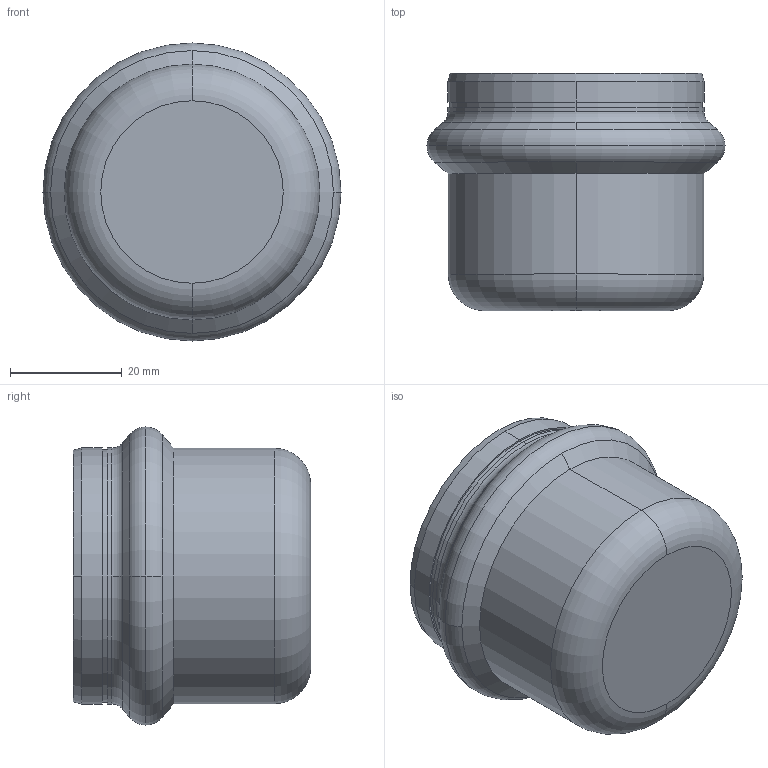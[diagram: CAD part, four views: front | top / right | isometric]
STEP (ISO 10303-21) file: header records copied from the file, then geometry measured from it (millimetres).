
FILE_DESCRIPTION(('CoCreate Modeling STEP Export'),'2;1');
FILE_NAME('8301VW42.stp','2013-03-05T13:30:29',(''),(''),'CoCreate Modeling STEP processor for AP214 (Solid Model)','CoCreate Modeling 17.00A 17-Jun-2010 (C) Parametric Technology GmbH','');
FILE_SCHEMA(('AUTOMOTIVE_DESIGN { 1 0 10303 214 1 1 1 1 }'));
Length unit declared in the file: millimetre
Products named in the file (1): 8301VW42
Bounding box: 53.4 x 42.55 x 53.4 mm (x, y, z)
Volume: 16834.7 mm3; surface area: 15126.3 mm2
Topology: 1 solids, 1 shells, 46 faces, 109 edges, 71 vertices
Faces by surface type: cylinder 16, cone 12, torus 10, plane 8
Entity records: 1071 total; most frequent: ORIENTED_EDGE 218, CARTESIAN_POINT 162, DIRECTION 154, EDGE_CURVE 109, VERTEX_POINT 71, AXIS2_PLACEMENT_3D 63, EDGE_LOOP 52, FACE_OUTER_BOUND 46
